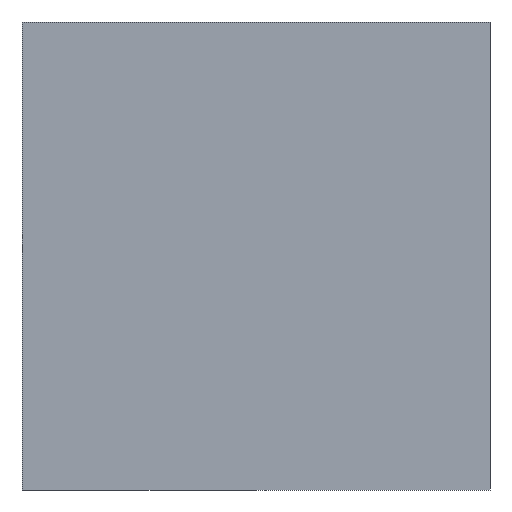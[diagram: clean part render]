
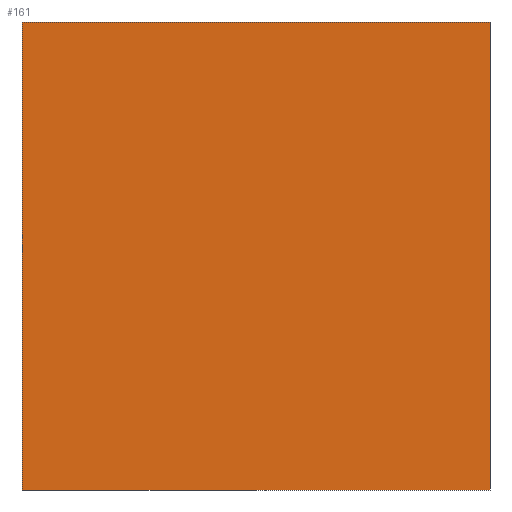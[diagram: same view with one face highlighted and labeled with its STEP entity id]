
A CAD part, left-side view. The second image highlights one B-rep face of the part: STEP entity #161.
In plain terms, the highlighted planar face has unit normal (-1, 0, 0).
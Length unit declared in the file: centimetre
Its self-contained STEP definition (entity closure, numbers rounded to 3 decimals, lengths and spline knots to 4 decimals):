
#3 = DIRECTION ( 'NONE',  ( 0., -1., 0. ) ) ;
#5 = DIRECTION ( 'NONE',  ( 0., 0., -1. ) ) ;
#18 = CARTESIAN_POINT ( 'NONE',  ( 0., 1000., 1000. ) ) ;
#32 = CARTESIAN_POINT ( 'NONE',  ( 0., 0., 1000. ) ) ;
#40 = EDGE_CURVE ( 'NONE', #265, #282, #340, .T. ) ;
#93 = VECTOR ( 'NONE', #5, 100. ) ;
#113 = CARTESIAN_POINT ( 'NONE',  ( 0., 1000., 1000. ) ) ;
#121 = CARTESIAN_POINT ( 'NONE',  ( 0., 1000., 0. ) ) ;
#123 = EDGE_CURVE ( 'NONE', #353, #265, #220, .T. ) ;
#133 = EDGE_CURVE ( 'NONE', #353, #225, #144, .T. ) ;
#144 = LINE ( 'NONE', #284, #93 ) ;
#152 = LINE ( 'NONE', #160, #436 ) ;
#160 = CARTESIAN_POINT ( 'NONE',  ( 0., 1000., 0. ) ) ;
#161 = ADVANCED_FACE ( 'NONE', ( #247 ), #384, .F. ) ;
#177 = DIRECTION ( 'NONE',  ( 0., 0., -1. ) ) ;
#197 = ORIENTED_EDGE ( 'NONE', *, *, #123, .F. ) ;
#201 = CARTESIAN_POINT ( 'NONE',  ( 0., 0., 1000. ) ) ;
#209 = VECTOR ( 'NONE', #3, 100. ) ;
#216 = DIRECTION ( 'NONE',  ( 0., -1., 0. ) ) ;
#220 = LINE ( 'NONE', #113, #209 ) ;
#225 = VERTEX_POINT ( 'NONE', #121 ) ;
#242 = ORIENTED_EDGE ( 'NONE', *, *, #40, .F. ) ;
#247 = FACE_OUTER_BOUND ( 'NONE', #382, .T. ) ;
#265 = VERTEX_POINT ( 'NONE', #201 ) ;
#271 = AXIS2_PLACEMENT_3D ( 'NONE', #274, #427, #412 ) ;
#274 = CARTESIAN_POINT ( 'NONE',  ( 0., 1000., 1000. ) ) ;
#280 = VECTOR ( 'NONE', #177, 100. ) ;
#282 = VERTEX_POINT ( 'NONE', #294 ) ;
#284 = CARTESIAN_POINT ( 'NONE',  ( 0., 1000., 1000. ) ) ;
#294 = CARTESIAN_POINT ( 'NONE',  ( 0., 0., 0. ) ) ;
#316 = ORIENTED_EDGE ( 'NONE', *, *, #133, .T. ) ;
#340 = LINE ( 'NONE', #32, #280 ) ;
#341 = EDGE_CURVE ( 'NONE', #225, #282, #152, .T. ) ;
#353 = VERTEX_POINT ( 'NONE', #18 ) ;
#382 = EDGE_LOOP ( 'NONE', ( #398, #242, #197, #316 ) ) ;
#384 = PLANE ( 'NONE',  #271 ) ;
#398 = ORIENTED_EDGE ( 'NONE', *, *, #341, .T. ) ;
#412 = DIRECTION ( 'NONE',  ( 0., 0., -1. ) ) ;
#427 = DIRECTION ( 'NONE',  ( 1., 0., 0. ) ) ;
#436 = VECTOR ( 'NONE', #216, 100. ) ;
